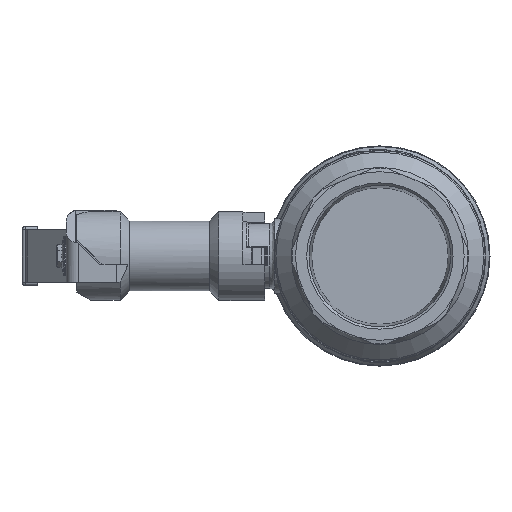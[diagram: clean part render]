
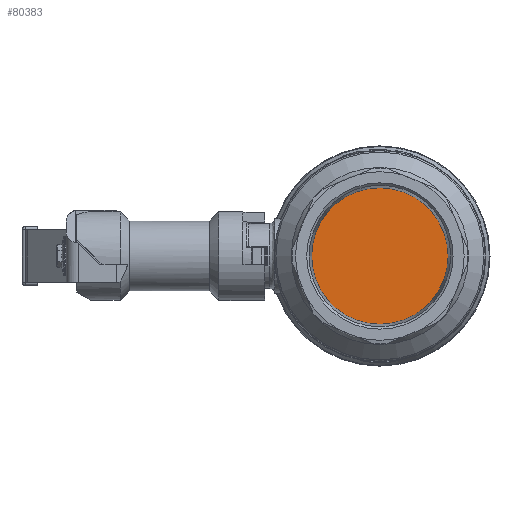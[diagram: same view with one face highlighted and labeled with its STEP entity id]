
A CAD part, left-side view. The second image highlights one B-rep face of the part: STEP entity #80383.
In plain terms, the highlighted planar face has unit normal (-1, 0, 0).
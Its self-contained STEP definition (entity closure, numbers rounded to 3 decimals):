
#80360=CARTESIAN_POINT('',(-76.15,-28.35,0.0));
#80361=VERTEX_POINT('',#80360);
#80362=CARTESIAN_POINT('',(-76.15,0.0,0.0));
#80363=DIRECTION('',(-1.0,0.0,0.0));
#80364=DIRECTION('',(0.0,-1.0,0.0));
#80365=AXIS2_PLACEMENT_3D('',#80362,#80363,#80364);
#80366=CIRCLE('',#80365,28.35);
#80367=EDGE_CURVE('',#80361,#80361,#80366,.T.);
#80375=CARTESIAN_POINT('',(-76.15,-14.175,0.0));
#80376=DIRECTION('',(-1.0,0.0,0.0));
#80377=DIRECTION('',(0.0,0.0,1.0));
#80378=AXIS2_PLACEMENT_3D('',#80375,#80376,#80377);
#80379=PLANE('',#80378);
#80380=ORIENTED_EDGE('',*,*,#80367,.T.);
#80381=EDGE_LOOP('',(#80380));
#80382=FACE_OUTER_BOUND('',#80381,.T.);
#80383=ADVANCED_FACE('',(#80382),#80379,.T.);
